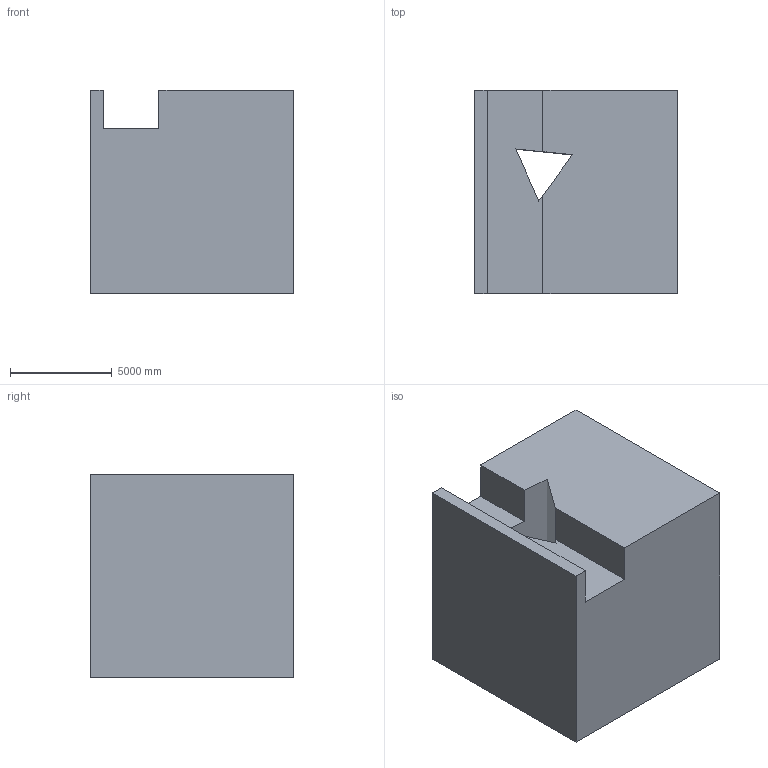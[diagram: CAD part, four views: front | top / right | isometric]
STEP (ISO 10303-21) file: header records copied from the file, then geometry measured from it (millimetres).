
FILE_DESCRIPTION (( 'STEP AP203' ), '1' );
FILE_NAME ('14.STEP', '2022-09-02T13:40:42', ( 'user' ), ( '' ), 'SwSTEP 2.0', 'SolidWorks 2021', '' );
FILE_SCHEMA (( 'CONFIG_CONTROL_DESIGN' ));
Length unit declared in the file: centimetre
Products named in the file (1): 14
Bounding box: 10000 x 10000 x 10000 mm (x, y, z)
Volume: 917615177796.9 mm3; surface area: 692299008.8 mm2
Topology: 1 solids, 1 shells, 14 faces, 39 edges, 26 vertices
Faces by surface type: plane 14
Entity records: 524 total; most frequent: CARTESIAN_POINT 80, ORIENTED_EDGE 78, DIRECTION 69, VECTOR 39, EDGE_CURVE 39, LINE 39, VERTEX_POINT 26, EDGE_LOOP 15
